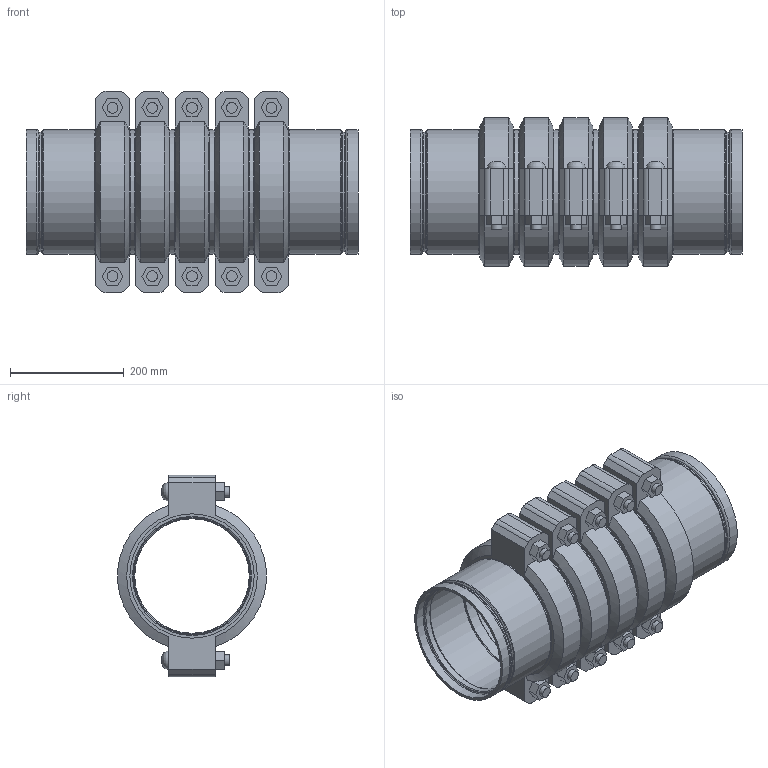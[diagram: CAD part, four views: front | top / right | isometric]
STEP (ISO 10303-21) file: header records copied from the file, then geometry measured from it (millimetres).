
FILE_DESCRIPTION(/* description */ ('VIC STRENGTHIN 100 EXPANSION JOINT 5 COUPLINGS COMPRESSED STYLE E155 (ST1)','CAx-IF Rec.Pracs.---Representation and Presentation of Product Manufacturing Information (PMI)---4.0---2014-10-13'),/* implementation_level */ '2;1');
FILE_NAME(/* name */ 'C:\Users\Vjadhav\AppData\Roaming\Autodesk\ApplicationPlugins\Victaulic.Temp\A149\Victaulic_SS-StrengThin 100_Expansion Joint_Compressed_5 Couplings_Style E155 (ST1)_8 (200).stp',/* time_stamp */ '2021-07-23T12:32:50+05:00',/* author */ ('kkamble'),/* organization */ ('Victaulic'),/* preprocessor_version */ 'ST-DEVELOPER v17.2',/* originating_system */ 'Autodesk Inventor 2019',/* authorisation */ '');
FILE_SCHEMA (('AP242_MANAGED_MODEL_BASED_3D_ENGINEERING_MIM_LF { 1 0 10303 442 1 1 4 }'));
Length unit declared in the file: inch
Products named in the file (4): E155-08.0; E494G-08.0; Nipple-08.0; 075-08.0
Assembly tree (11 placements, depth 2):
  E155-08.0
    E494G-08.0  x2
    Nipple-08.0  x4
    075-08.0  x5
Bounding box: 584.96 x 261.72 x 354.84 mm (x, y, z)
Volume: 9247031 mm3; surface area: 1710527.3 mm2
Topology: 11 solids, 21 shells, 383 faces, 985 edges, 700 vertices
Faces by surface type: plane 208, cylinder 109, torus 32, cone 24, bspline 10
Full cylindrical faces by diameter (mm): 19.05 x20, 21.209 x10, 201.651 x2, 202.717 x4, 204.851 x2, 209.525 x6, 211.201 x2, 214.401 x10, 219.075 x23
Entity records: 3698 total; most frequent: DIRECTION 657, CARTESIAN_POINT 652, ORIENTED_EDGE 544, AXIS2_PLACEMENT_3D 280, EDGE_CURVE 272, VERTEX_POINT 197, CIRCLE 167, EDGE_LOOP 125
